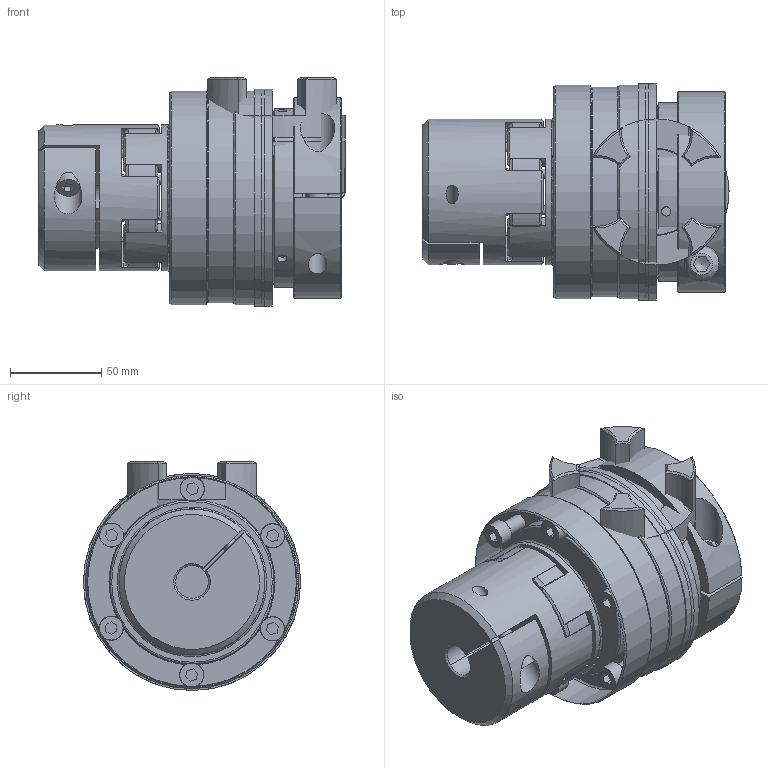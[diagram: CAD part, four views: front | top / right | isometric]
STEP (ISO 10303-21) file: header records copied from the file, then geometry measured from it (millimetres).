
FILE_DESCRIPTION( ( 'Unknown' ), '1' );
FILE_NAME( 'C:/Dokumente und Einstellungen/Sven/Desktop/hp kbk/E-KK/KBK EKK-38-160.stp', 'Unknown', ( 'Unknown' ), ( 'Unknown' ), 'XStep 1.0', 'Unknown', ' ' );
FILE_SCHEMA( ( 'automotive_design' ) );
Length unit declared in the file: millimetre
Products named in the file (17): Assem1; Assem2; Assem3; Zylinderschraube DIN 912_3; ball_bearing_-_6011_0_01_0; ball_bearing_-_6011_0_02_0; ball_bearing_-_6011_0_03_0; Stellring 300_0; Druckring 300_0; Flansch 300_0; a_55_0; Elastomerflansch 38_0; Zahnkranz_38_Standard_0; KBE 2 - 38_Nabe; Kupplung L-K-300 Grundkörper_0; Klemmnabe 300_0; schraube_iso_7380-m12x30-12_9_0
Bounding box: 167.75 x 119 x 125.5 mm (x, y, z)
Volume: 2216201.2 mm3; surface area: 544623.2 mm2
Topology: 38 solids, 38 shells, 858 faces, 1960 edges, 1244 vertices
Faces by surface type: cylinder 304, plane 268, cone 231, torus 53, bspline 2
Full cylindrical faces by diameter (mm): 2.5 x4, 3.242 x6, 5 x16, 5.2 x6, 6.647 x12, 6.8 x2, 8 x9, 8.2 x12, 9 x2, 10.106 x2, 12 x2, 12.5 x2, 13 x9, 13.2 x12, 15 x2, 18 x2, 19 x2, 20 x2, 38 x4, 40 x2, 52 x2, 55 x7, 60 x2, 66.3 x6, 70 x2, 76 x4, 79.1 x6, 80 x4, 83.5 x2, 88 x2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
Entity records: 11149 total; most frequent: CARTESIAN_POINT 2833, DIRECTION 1782, ORIENTED_EDGE 1416, AXIS2_PLACEMENT_3D 826, EDGE_CURVE 708, EDGE_LOOP 564, VERTEX_POINT 507, FACE_OUTER_BOUND 461
